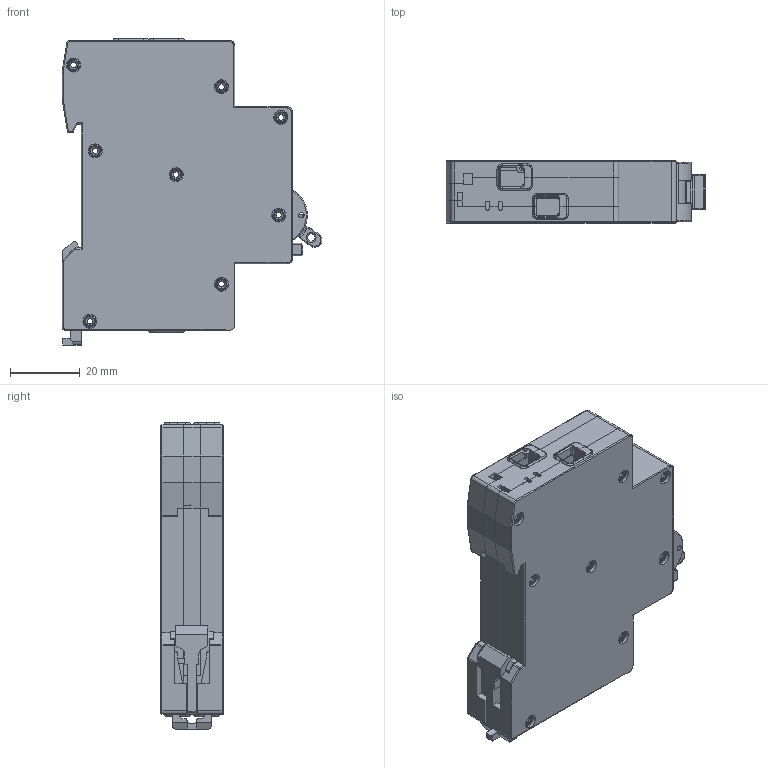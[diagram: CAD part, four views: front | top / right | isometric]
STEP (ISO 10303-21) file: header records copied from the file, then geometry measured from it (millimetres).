
FILE_DESCRIPTION (( 'STEP AP214' ), '1' );
FILE_NAME ('EVOKEAB4003.STEP', '2026-06-30T07:47:00', ( '' ), ( '' ), 'SwSTEP 2.0', 'SolidWorks 2025', '' );
FILE_SCHEMA (( 'AUTOMOTIVE_DESIGN' ));
Length unit declared in the file: millimetre
Products named in the file (1): EVOKEAB4003
Bounding box: 74.49 x 17.8 x 87.76 mm (x, y, z)
Surface area: 58263.2 mm2 (no closed solid volume)
Topology: 0 solids, 36 shells, 2832 faces, 8646 edges, 6121 vertices
Faces by surface type: plane 1798, cylinder 765, torus 136, bspline 102, cone 19, sphere 12
Entity records: 114083 total; most frequent: CARTESIAN_POINT 34173, ORIENTED_EDGE 17286, DIRECTION 14086, EDGE_CURVE 8644, VERTEX_POINT 6120, VECTOR 5892, LINE 5892, AXIS2_PLACEMENT_3D 4097
